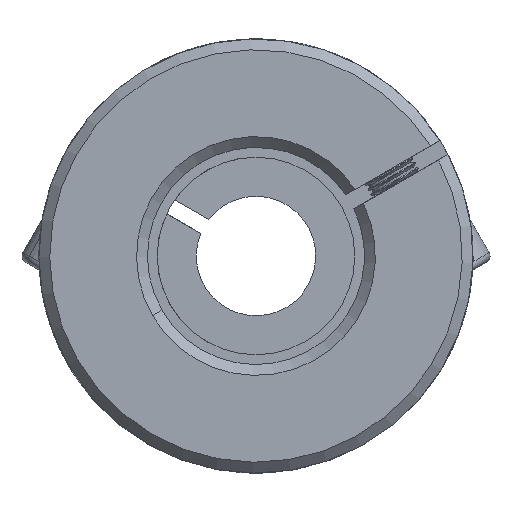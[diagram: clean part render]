
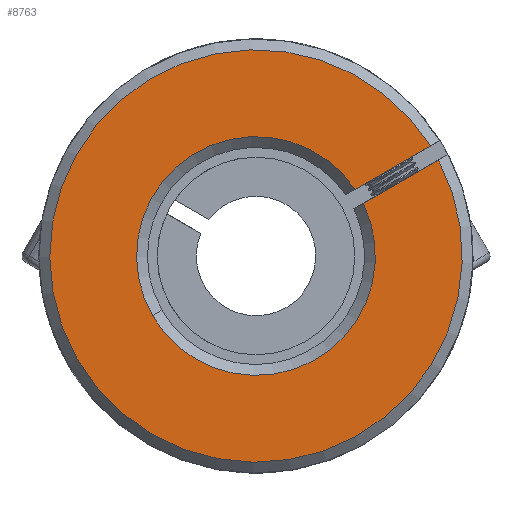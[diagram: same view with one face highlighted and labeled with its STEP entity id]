
A CAD part, front view. The second image highlights one B-rep face of the part: STEP entity #8763.
In plain terms, the highlighted planar face has unit normal (0, -1, 0).
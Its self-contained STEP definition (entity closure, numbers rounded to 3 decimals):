
#155 = CARTESIAN_POINT ( 'NONE',  ( 7.68, -31.239, 46.14 ) ) ;
#195 = DIRECTION ( 'NONE',  ( 0., 1., 0. ) ) ;
#871 = DIRECTION ( 'NONE',  ( 0.5, 0., -0.866 ) ) ;
#1048 = EDGE_LOOP ( 'NONE', ( #8164, #8652, #11625, #6107, #12255 ) ) ;
#1155 = VERTEX_POINT ( 'NONE', #5247 ) ;
#1284 = DIRECTION ( 'NONE',  ( 0.5, 0., -0.866 ) ) ;
#1343 = EDGE_CURVE ( 'NONE', #12474, #1760, #8850, .T. ) ;
#1500 = LINE ( 'NONE', #13516, #8743 ) ;
#1760 = VERTEX_POINT ( 'NONE', #155 ) ;
#2036 = CARTESIAN_POINT ( 'NONE',  ( 52.98, -31.239, 45.743 ) ) ;
#2575 = CARTESIAN_POINT ( 'NONE',  ( -1.447, -31.239, 40. ) ) ;
#2707 = CARTESIAN_POINT ( 'NONE',  ( -1.447, -31.239, 40. ) ) ;
#3311 = CARTESIAN_POINT ( 'NONE',  ( 15.367, -31.239, 48.848 ) ) ;
#3346 = CIRCLE ( 'NONE', #5724, 19. ) ;
#3509 = EDGE_CURVE ( 'NONE', #13075, #4679, #3346, .T. ) ;
#4083 = CARTESIAN_POINT ( 'NONE',  ( -10.971, -31.239, 34.497 ) ) ;
#4679 = VERTEX_POINT ( 'NONE', #3311 ) ;
#5101 = EDGE_CURVE ( 'NONE', #1155, #4679, #5334, .T. ) ;
#5247 = CARTESIAN_POINT ( 'NONE',  ( 8.431, -31.239, 44.841 ) ) ;
#5291 = AXIS2_PLACEMENT_3D ( 'NONE', #2036, #13761, #871 ) ;
#5295 = CARTESIAN_POINT ( 'NONE',  ( 7.562, -31.239, 44.339 ) ) ;
#5334 = LINE ( 'NONE', #5295, #10283 ) ;
#5449 = EDGE_CURVE ( 'NONE', #13075, #1760, #1500, .T. ) ;
#5510 = AXIS2_PLACEMENT_3D ( 'NONE', #2575, #7921, #6998 ) ;
#5724 = AXIS2_PLACEMENT_3D ( 'NONE', #2707, #9091, #11171 ) ;
#6107 = ORIENTED_EDGE ( 'NONE', *, *, #5449, .F. ) ;
#6907 = FACE_OUTER_BOUND ( 'NONE', #1048, .T. ) ;
#6993 = DIRECTION ( 'NONE',  ( -0.866, 0., -0.5 ) ) ;
#6998 = DIRECTION ( 'NONE',  ( 0.5, 0., -0.866 ) ) ;
#7921 = DIRECTION ( 'NONE',  ( 0., 1., 0. ) ) ;
#8164 = ORIENTED_EDGE ( 'NONE', *, *, #5101, .F. ) ;
#8471 = CIRCLE ( 'NONE', #9266, 11. ) ;
#8652 = ORIENTED_EDGE ( 'NONE', *, *, #13650, .T. ) ;
#8743 = VECTOR ( 'NONE', #6993, 1000. ) ;
#8763 = ADVANCED_FACE ( 'NONE', ( #6907 ), #10673, .F. ) ;
#8850 = CIRCLE ( 'NONE', #5510, 11. ) ;
#9091 = DIRECTION ( 'NONE',  ( 0., -1., 0. ) ) ;
#9266 = AXIS2_PLACEMENT_3D ( 'NONE', #11065, #195, #1284 ) ;
#10283 = VECTOR ( 'NONE', #12806, 1000. ) ;
#10673 = PLANE ( 'NONE',  #5291 ) ;
#10852 = CARTESIAN_POINT ( 'NONE',  ( 14.616, -31.239, 50.147 ) ) ;
#11065 = CARTESIAN_POINT ( 'NONE',  ( -1.447, -31.239, 40. ) ) ;
#11171 = DIRECTION ( 'NONE',  ( 0.5, 0., -0.866 ) ) ;
#11625 = ORIENTED_EDGE ( 'NONE', *, *, #1343, .T. ) ;
#12255 = ORIENTED_EDGE ( 'NONE', *, *, #3509, .T. ) ;
#12474 = VERTEX_POINT ( 'NONE', #4083 ) ;
#12806 = DIRECTION ( 'NONE',  ( 0.866, 0., 0.5 ) ) ;
#13075 = VERTEX_POINT ( 'NONE', #10852 ) ;
#13516 = CARTESIAN_POINT ( 'NONE',  ( 6.812, -31.239, 45.638 ) ) ;
#13650 = EDGE_CURVE ( 'NONE', #1155, #12474, #8471, .T. ) ;
#13761 = DIRECTION ( 'NONE',  ( 0., 1., 0. ) ) ;
